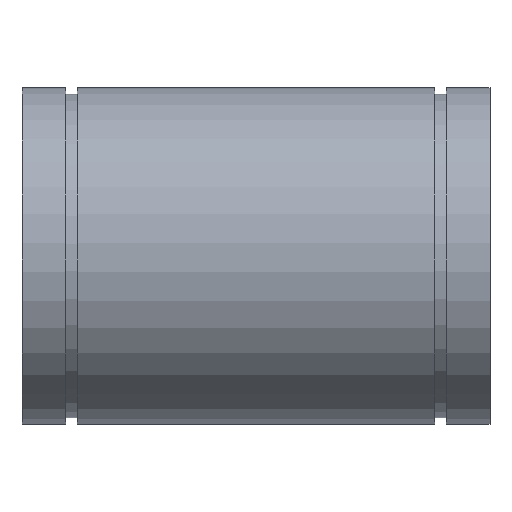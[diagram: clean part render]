
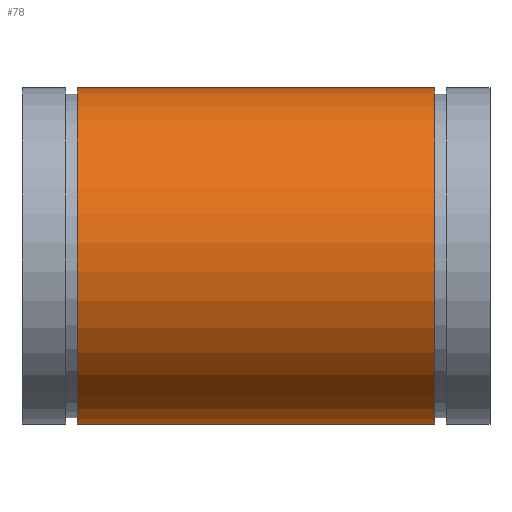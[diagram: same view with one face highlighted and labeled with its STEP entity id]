
A CAD part, front view. The second image highlights one B-rep face of the part: STEP entity #78.
In plain terms, the highlighted cylindrical face has radius 45 mm (diameter 90 mm), a partial arc.
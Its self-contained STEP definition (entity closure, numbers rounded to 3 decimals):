
#78 = ADVANCED_FACE( '', ( #96 ), #97, .T. );
#96 = FACE_OUTER_BOUND( '', #124, .T. );
#97 = CYLINDRICAL_SURFACE( '', #125, 45. );
#124 = EDGE_LOOP( '', ( #167, #168, #169, #170 ) );
#125 = AXIS2_PLACEMENT_3D( '', #171, #172, #173 );
#167 = ORIENTED_EDGE( '', *, *, #271, .T. );
#168 = ORIENTED_EDGE( '', *, *, #272, .T. );
#169 = ORIENTED_EDGE( '', *, *, #273, .F. );
#170 = ORIENTED_EDGE( '', *, *, #274, .T. );
#171 = CARTESIAN_POINT( '', ( 125., 0., 0. ) );
#172 = DIRECTION( '', ( -1., 0., 0. ) );
#173 = DIRECTION( '', ( 0., 0., -1. ) );
#271 = EDGE_CURVE( '', #317, #318, #319, .T. );
#272 = EDGE_CURVE( '', #318, #320, #321, .T. );
#273 = EDGE_CURVE( '', #322, #320, #323, .T. );
#274 = EDGE_CURVE( '', #322, #317, #324, .F. );
#317 = VERTEX_POINT( '', #383 );
#318 = VERTEX_POINT( '', #384 );
#319 = CIRCLE( '', #385, 45. );
#320 = VERTEX_POINT( '', #386 );
#321 = LINE( '', #387, #388 );
#322 = VERTEX_POINT( '', #389 );
#323 = CIRCLE( '', #390, 45. );
#324 = LINE( '', #391, #392 );
#383 = CARTESIAN_POINT( '', ( 14.8, 30.741, 32.863 ) );
#384 = CARTESIAN_POINT( '', ( 14.8, 32.863, 30.741 ) );
#385 = AXIS2_PLACEMENT_3D( '', #461, #462, #463 );
#386 = CARTESIAN_POINT( '', ( 110.2, 32.863, 30.741 ) );
#387 = CARTESIAN_POINT( '', ( 125., 32.863, 30.741 ) );
#388 = VECTOR( '', #464, 1000. );
#389 = CARTESIAN_POINT( '', ( 110.2, 30.741, 32.863 ) );
#390 = AXIS2_PLACEMENT_3D( '', #465, #466, #467 );
#391 = CARTESIAN_POINT( '', ( 125., 30.741, 32.863 ) );
#392 = VECTOR( '', #468, 1000. );
#461 = CARTESIAN_POINT( '', ( 14.8, 0., 0. ) );
#462 = DIRECTION( '', ( 1., 0., 0. ) );
#463 = DIRECTION( '', ( 0., 0., -1. ) );
#464 = DIRECTION( '', ( 1., 0., 0. ) );
#465 = CARTESIAN_POINT( '', ( 110.2, 0., 0. ) );
#466 = DIRECTION( '', ( 1., 0., 0. ) );
#467 = DIRECTION( '', ( 0., 0., -1. ) );
#468 = DIRECTION( '', ( 1., 0., 0. ) );
